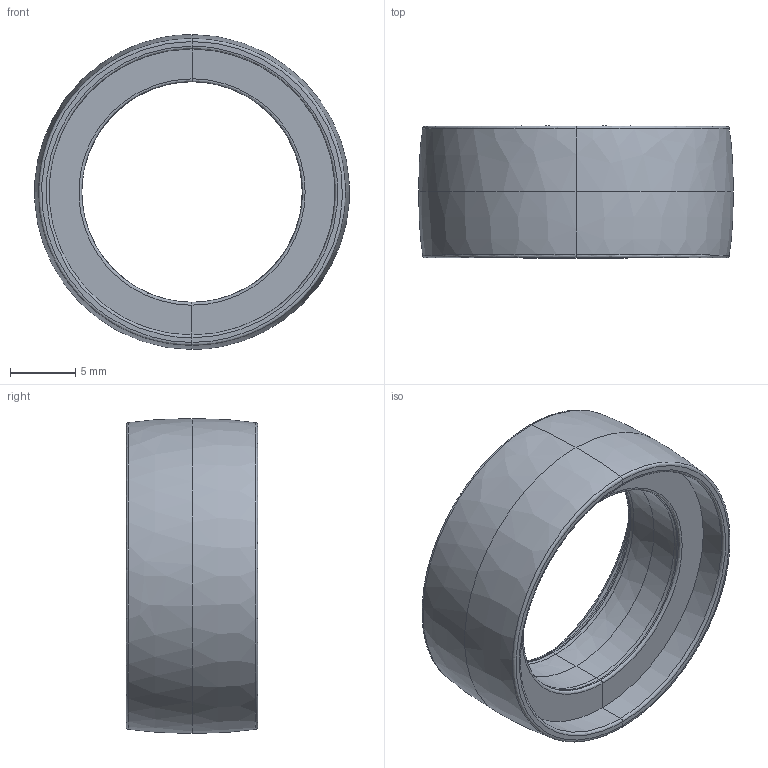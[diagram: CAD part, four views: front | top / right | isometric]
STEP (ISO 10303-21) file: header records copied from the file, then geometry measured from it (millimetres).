
FILE_DESCRIPTION(/* description */ ('Generated from Alias Stage'),/* implementation_level */ '2;1');
FILE_NAME(/* name */ 'join',/* time_stamp */ '2016-02-22T23:07:16+01:00',/* author */ (''),/* organization */ ('Autodesk Alias'),/* preprocessor_version */ 'ST-DEVELOPER v11',/* originating_system */ 'Autodesk OpenModel 2015',/* authorisation */ '');
FILE_SCHEMA (('AUTOMOTIVE_DESIGN { 1 2 10303 214 1 1 1 1 }'));
Length unit declared in the file: millimetre
Products named in the file (1): join
Bounding box: 24.01 x 10.05 x 24.05 mm (x, y, z)
Volume: 1575.3 mm3; surface area: 1745.1 mm2
Topology: 1 solids, 1 shells, 40 faces, 80 edges, 40 vertices
Faces by surface type: bspline 40
Entity records: 11075 total; most frequent: CARTESIAN_POINT 10643, ORIENTED_EDGE 160, EDGE_CURVE 80, VERTEX_POINT 46, EDGE_LOOP 40, FACE_OUTER_BOUND 40, ADVANCED_FACE 40, DIRECTION 2
